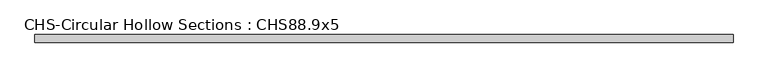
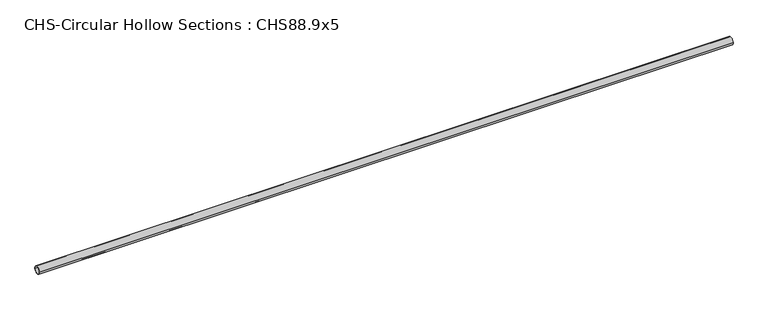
"""IFC4 building model written with IfcOpenShell, lengths in millimetres: beam geometry, CHS-Circular Hollow Sections : CHS88.9x5."""

from ifc_helpers import new_model, si_unit, point, frame, origin, origin_2d, place, context, project, spatial, circle_curve, trimmed, segment, composite_curve, outline, extrude, source, transform, mapped, element, save


def chs_circular_hollow_sections_chs88_9x5_44a27128(model_context):
    return source(origin(), model_context, "Body", "SweptSolid", [
        extrude(outline(composite_curve([segment(trimmed(circle_curve(origin_2d(), 44.45), [point((-44.45, 0.0))], [point((44.45, 0.0))], False, "CARTESIAN"), True, "CONTINUOUS"), segment(trimmed(circle_curve(origin_2d(), 44.45), [point((44.45, 0.0))], [point((-44.45, 0.0))], False, "CARTESIAN"), True, "CONTINUOUS")], self_intersect=False), holes=[composite_curve([segment(trimmed(circle_curve(origin_2d(), 39.45), [point((39.45, 0.0))], [point((-39.45, 0.0))], True, "CARTESIAN"), True, "CONTINUOUS"), segment(trimmed(circle_curve(origin_2d(), 39.45), [point((-39.45, 0.0))], [point((39.45, 0.0))], True, "CARTESIAN"), True, "CONTINUOUS")], self_intersect=False)]), frame((-4246.5, 0.0, 0.0), z_axis=(1.0, 0.0, 0.0), x_axis=(0.0, 1.0, 0.0)), (0.0, 0.0, 1.0), 8092.0),
    ])


if __name__ == "__main__":
    model = new_model("IFC4")
    model_context = context("Model", 3, world=origin())
    ifc_project = project(units=[si_unit("LENGTHUNIT", "METRE", prefix="MILLI")], contexts=[model_context])
    site = spatial("IfcSite", under=ifc_project)
    building = spatial("IfcBuilding", under=site)
    placement = place(None, origin())
    chs_circular_hollow_sections_chs88_9x5_shape = chs_circular_hollow_sections_chs88_9x5_44a27128(model_context)
    element("IfcBeam", 1, ObjectType="CHS-Circular Hollow Sections : CHS88.9x5", at=placement, inside=building, context=model_context, shape_type="MappedRepresentation", body=[
        mapped(chs_circular_hollow_sections_chs88_9x5_shape, transform((0.0, 0.0, 0.0), x_axis=(1.0, 0.0, 0.0), y_axis=(0.0, 1.0, 0.0), z_axis=(0.0, 0.0, 1.0))),
    ])
    save(model, "model.ifc")
